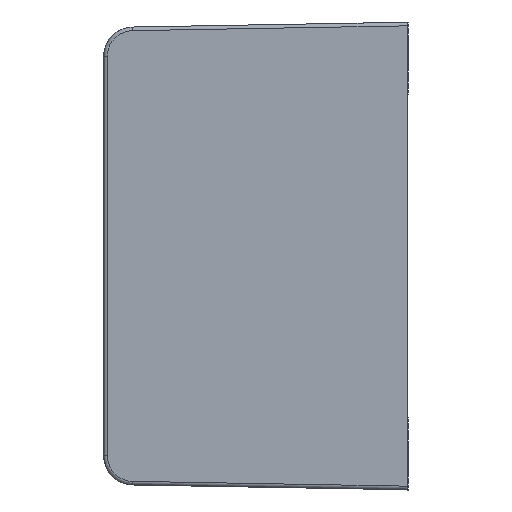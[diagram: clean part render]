
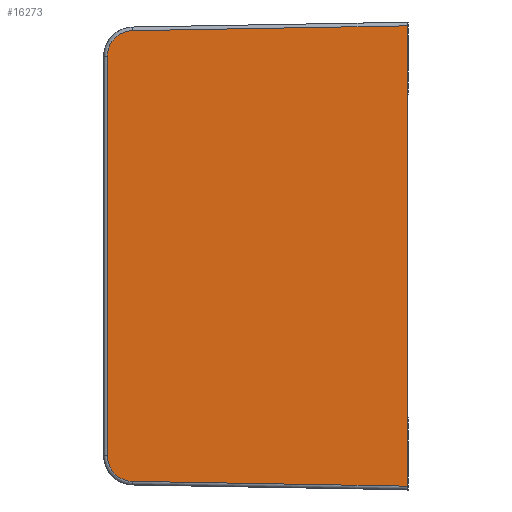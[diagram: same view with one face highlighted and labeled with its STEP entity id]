
A CAD part, left-side view. The second image highlights one B-rep face of the part: STEP entity #16273.
In plain terms, the highlighted planar face has unit normal (-1, 0.018, 0).
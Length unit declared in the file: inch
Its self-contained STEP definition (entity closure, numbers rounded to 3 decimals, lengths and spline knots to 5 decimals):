
#261 = CARTESIAN_POINT ( 'NONE',  ( -2.45897, 2.35036, 1.92798 ) ) ;
#271 = CARTESIAN_POINT ( 'NONE',  ( -2.45522, 2.56554, 1.70901 ) ) ;
#272 = CARTESIAN_POINT ( 'NONE',  ( -2.45522, 2.56554, -1.70901 ) ) ;
#273 = CARTESIAN_POINT ( 'NONE',  ( -2.45897, 2.35036, -1.92798 ) ) ;
#782 = PLANE ( 'NONE',  #7373 ) ;
#786 = CARTESIAN_POINT ( 'NONE',  ( -2.5, 0., 2. ) ) ;
#791 = FACE_OUTER_BOUND ( 'NONE', #15873, .T. ) ;
#796 = DIRECTION ( 'NONE',  ( -1., 0.017, 0. ) ) ;
#797 = DIRECTION ( 'NONE',  ( -0.017, -1., 0. ) ) ;
#7373 = AXIS2_PLACEMENT_3D ( 'NONE', #786, #796, #797 ) ;
#12738 = VECTOR ( 'NONE', #26180, 39.37008 ) ;
#12754 = VECTOR ( 'NONE', #26174, 39.37008 ) ;
#12775 = VECTOR ( 'NONE', #26187, 39.37008 ) ;
#13010 = VECTOR ( 'NONE', #13413, 39.37008 ) ;
#13406 = LINE ( 'NONE', #13411, #13010 ) ;
#13411 = CARTESIAN_POINT ( 'NONE',  ( -2.5, 0., 2. ) ) ;
#13413 = DIRECTION ( 'NONE',  ( 0., 0., 1. ) ) ;
#14195 = VERTEX_POINT ( 'NONE', #23560 ) ;
#14196 = VERTEX_POINT ( 'NONE', #23561 ) ;
#15025 = EDGE_CURVE ( 'NONE', #14196, #15452, #26161, .T. ) ;
#15026 = EDGE_CURVE ( 'NONE', #15452, #15462, #25404, .T. ) ;
#15027 = EDGE_CURVE ( 'NONE', #15462, #15463, #26178, .T. ) ;
#15028 = EDGE_CURVE ( 'NONE', #15463, #15464, #25405, .T. ) ;
#15029 = EDGE_CURVE ( 'NONE', #15464, #14195, #26185, .T. ) ;
#15403 = ORIENTED_EDGE ( 'NONE', *, *, #22210, .T. ) ;
#15404 = ORIENTED_EDGE ( 'NONE', *, *, #15025, .T. ) ;
#15405 = ORIENTED_EDGE ( 'NONE', *, *, #15026, .T. ) ;
#15406 = ORIENTED_EDGE ( 'NONE', *, *, #15027, .T. ) ;
#15407 = ORIENTED_EDGE ( 'NONE', *, *, #15028, .T. ) ;
#15408 = ORIENTED_EDGE ( 'NONE', *, *, #15029, .T. ) ;
#15452 = VERTEX_POINT ( 'NONE', #261 ) ;
#15462 = VERTEX_POINT ( 'NONE', #271 ) ;
#15463 = VERTEX_POINT ( 'NONE', #272 ) ;
#15464 = VERTEX_POINT ( 'NONE', #273 ) ;
#15873 = EDGE_LOOP ( 'NONE', ( #15403, #15404, #15405, #15406, #15407, #15408 ) ) ;
#16273 = ADVANCED_FACE ( 'NONE', ( #791 ), #782, .T. ) ;
#22210 = EDGE_CURVE ( 'NONE', #14195, #14196, #13406, .T. ) ;
#23560 = CARTESIAN_POINT ( 'NONE',  ( -2.5, 0., -1.969 ) ) ;
#23561 = CARTESIAN_POINT ( 'NONE',  ( -2.5, 0., 1.969 ) ) ;
#25404 =( BOUNDED_CURVE ( )  B_SPLINE_CURVE ( 3, ( #26173, #26168, #26176, #26177 ),
 .UNSPECIFIED., .F., .T. ) 
 B_SPLINE_CURVE_WITH_KNOTS ( ( 4, 4 ),
 ( 4.72984, 6.28319 ),
 .UNSPECIFIED. ) 
 CURVE ( )  GEOMETRIC_REPRESENTATION_ITEM ( )  RATIONAL_B_SPLINE_CURVE ( ( 1., 0.809, 0.809, 1. ) ) 
 REPRESENTATION_ITEM ( '' )  );
#25405 =( BOUNDED_CURVE ( )  B_SPLINE_CURVE ( 3, ( #26169, #26175, #26183, #26184 ),
 .UNSPECIFIED., .F., .T. ) 
 B_SPLINE_CURVE_WITH_KNOTS ( ( 4, 4 ),
 ( 3.14159, 4.69494 ),
 .UNSPECIFIED. ) 
 CURVE ( )  GEOMETRIC_REPRESENTATION_ITEM ( )  RATIONAL_B_SPLINE_CURVE ( ( 1., 0.809, 0.809, 1. ) ) 
 REPRESENTATION_ITEM ( '' )  );
#26161 = LINE ( 'NONE', #26162, #12754 ) ;
#26162 = CARTESIAN_POINT ( 'NONE',  ( -2.50001, -0.00054, 1.96901 ) ) ;
#26168 = CARTESIAN_POINT ( 'NONE',  ( -2.45677, 2.47686, 1.92577 ) ) ;
#26169 = CARTESIAN_POINT ( 'NONE',  ( -2.45522, 2.56554, -1.70901 ) ) ;
#26173 = CARTESIAN_POINT ( 'NONE',  ( -2.45897, 2.35036, 1.92798 ) ) ;
#26174 = DIRECTION ( 'NONE',  ( 0.017, 1., -0.017 ) ) ;
#26175 = CARTESIAN_POINT ( 'NONE',  ( -2.45522, 2.56554, -1.83553 ) ) ;
#26176 = CARTESIAN_POINT ( 'NONE',  ( -2.45522, 2.56554, 1.83553 ) ) ;
#26177 = CARTESIAN_POINT ( 'NONE',  ( -2.45522, 2.56554, 1.70901 ) ) ;
#26178 = LINE ( 'NONE', #26179, #12738 ) ;
#26179 = CARTESIAN_POINT ( 'NONE',  ( -2.45522, 2.56554, -1.70901 ) ) ;
#26180 = DIRECTION ( 'NONE',  ( 0., 0., -1. ) ) ;
#26183 = CARTESIAN_POINT ( 'NONE',  ( -2.45677, 2.47686, -1.92577 ) ) ;
#26184 = CARTESIAN_POINT ( 'NONE',  ( -2.45897, 2.35036, -1.92798 ) ) ;
#26185 = LINE ( 'NONE', #26186, #12775 ) ;
#26186 = CARTESIAN_POINT ( 'NONE',  ( -2.49879, 0.06924, -1.9678 ) ) ;
#26187 = DIRECTION ( 'NONE',  ( -0.017, -1., -0.017 ) ) ;
